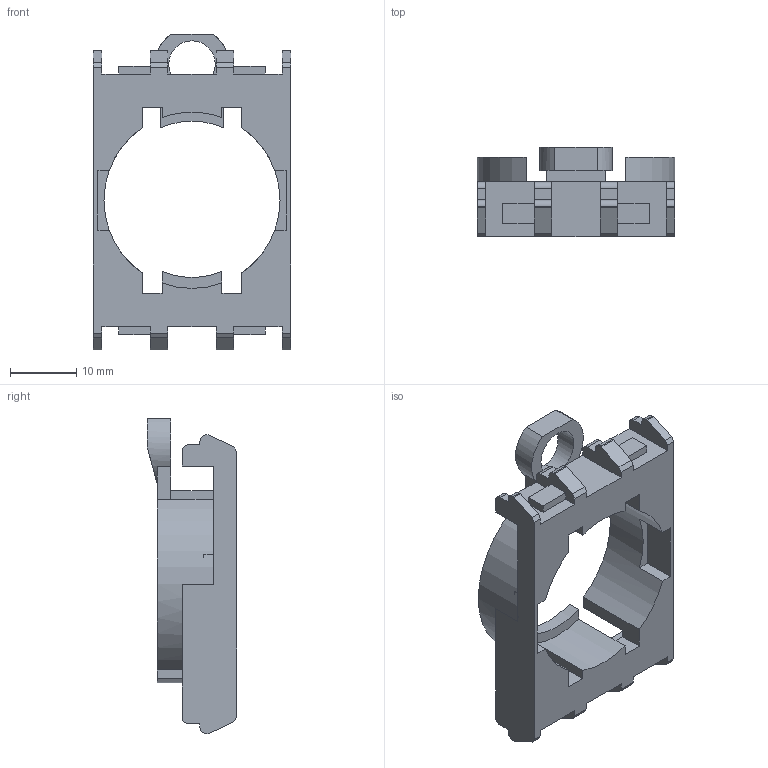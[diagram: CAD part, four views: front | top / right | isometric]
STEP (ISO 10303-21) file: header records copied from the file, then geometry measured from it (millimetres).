
FILE_DESCRIPTION (( 'STEP AP203' ), '1' );
FILE_NAME ('B3S.STEP', '2014-02-12T09:34:41', ( 'edv' ), ( '' ), 'SwSTEP 2.0', 'SolidWorks 2014', '' );
FILE_SCHEMA (( 'CONFIG_CONTROL_DESIGN' ));
Length unit declared in the file: millimetre
Products named in the file (1): B3S
Bounding box: 29.7 x 13.4 x 47.5 mm (x, y, z)
Volume: 3925.4 mm3; surface area: 4914.7 mm2
Topology: 1 solids, 1 shells, 148 faces, 440 edges, 293 vertices
Faces by surface type: plane 117, cylinder 31
Entity records: 5013 total; most frequent: CARTESIAN_POINT 894, ORIENTED_EDGE 880, DIRECTION 806, EDGE_CURVE 440, LINE 364, VECTOR 364, VERTEX_POINT 293, AXIS2_PLACEMENT_3D 221
